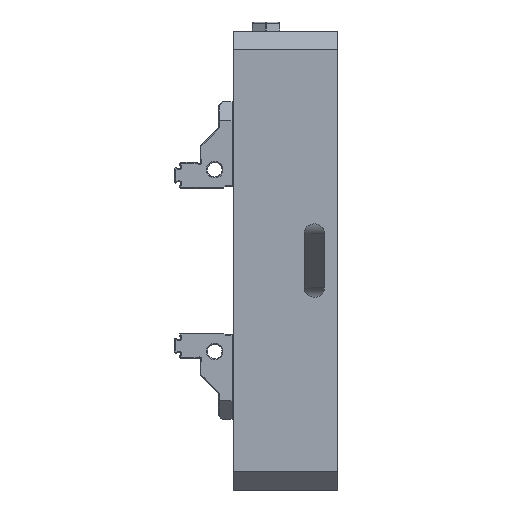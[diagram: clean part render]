
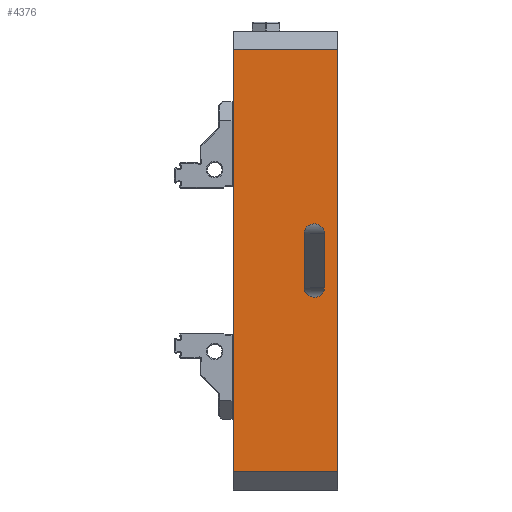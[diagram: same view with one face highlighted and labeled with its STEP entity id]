
A CAD part, left-side view. The second image highlights one B-rep face of the part: STEP entity #4376.
In plain terms, the highlighted planar face has unit normal (-1, 0, 0).
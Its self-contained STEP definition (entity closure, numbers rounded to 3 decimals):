
#728=ELLIPSE('',#31666,5.587,5.25);
#729=ELLIPSE('',#31667,5.587,5.25);
#4376=ADVANCED_FACE('',(#5875,#5876),#5428,.F.);
#5428=PLANE('',#31668);
#5875=FACE_BOUND('',#7467,.T.);
#5876=FACE_BOUND('',#7468,.T.);
#7467=EDGE_LOOP('',(#15901,#15902,#15903,#15904));
#7468=EDGE_LOOP('',(#15905,#15906,#15907,#15908));
#15901=ORIENTED_EDGE('',*,*,#23623,.T.);
#15902=ORIENTED_EDGE('',*,*,#23624,.T.);
#15903=ORIENTED_EDGE('',*,*,#23625,.T.);
#15904=ORIENTED_EDGE('',*,*,#23626,.T.);
#15905=ORIENTED_EDGE('',*,*,#23627,.T.);
#15906=ORIENTED_EDGE('',*,*,#23416,.F.);
#15907=ORIENTED_EDGE('',*,*,#23628,.T.);
#15908=ORIENTED_EDGE('',*,*,#23629,.T.);
#19381=VERTEX_POINT('',#54224);
#19382=VERTEX_POINT('',#54226);
#19574=VERTEX_POINT('',#54885);
#19575=VERTEX_POINT('',#54886);
#19576=VERTEX_POINT('',#54888);
#19577=VERTEX_POINT('',#54890);
#19578=VERTEX_POINT('',#54893);
#19579=VERTEX_POINT('',#54895);
#23416=EDGE_CURVE('',#19381,#19382,#26289,.T.);
#23623=EDGE_CURVE('',#19574,#19575,#26457,.T.);
#23624=EDGE_CURVE('',#19575,#19576,#728,.T.);
#23625=EDGE_CURVE('',#19576,#19577,#26458,.T.);
#23626=EDGE_CURVE('',#19577,#19574,#729,.T.);
#23627=EDGE_CURVE('',#19578,#19382,#26459,.T.);
#23628=EDGE_CURVE('',#19381,#19579,#26460,.T.);
#23629=EDGE_CURVE('',#19579,#19578,#26461,.T.);
#26289=LINE('',#54225,#29031);
#26457=LINE('',#54884,#29199);
#26458=LINE('',#54889,#29200);
#26459=LINE('',#54892,#29201);
#26460=LINE('',#54894,#29202);
#26461=LINE('',#54896,#29203);
#29031=VECTOR('',#38306,1.);
#29199=VECTOR('',#38522,1.);
#29200=VECTOR('',#38525,1.);
#29201=VECTOR('',#38528,1.);
#29202=VECTOR('',#38529,1.);
#29203=VECTOR('',#38530,1.);
#31666=AXIS2_PLACEMENT_3D('',#54887,#38523,#38524);
#31667=AXIS2_PLACEMENT_3D('',#54891,#38526,#38527);
#31668=AXIS2_PLACEMENT_3D('',#54897,#38531,#38532);
#38306=DIRECTION('',(0.,0.,-1.));
#38522=DIRECTION('',(0.,0.,-1.));
#38523=DIRECTION('',(1.,0.,0.));
#38524=DIRECTION('',(0.,-1.,0.));
#38525=DIRECTION('',(0.,0.,1.));
#38526=DIRECTION('',(1.,0.,0.));
#38527=DIRECTION('',(0.,1.,0.));
#38528=DIRECTION('',(0.,-1.,0.));
#38529=DIRECTION('',(0.,1.,0.));
#38530=DIRECTION('',(0.,0.,-1.));
#38531=DIRECTION('',(1.,0.,0.));
#38532=DIRECTION('',(0.,0.,-1.));
#54224=CARTESIAN_POINT('',(1581.552,691.136,520.));
#54225=CARTESIAN_POINT('',(1581.552,691.136,300.));
#54226=CARTESIAN_POINT('',(1581.552,691.136,290.));
#54884=CARTESIAN_POINT('',(1581.552,698.291,300.));
#54885=CARTESIAN_POINT('',(1581.552,698.291,419.75));
#54886=CARTESIAN_POINT('',(1581.552,698.291,390.25));
#54887=CARTESIAN_POINT('',(1581.552,703.878,390.25));
#54888=CARTESIAN_POINT('',(1581.552,709.465,390.25));
#54889=CARTESIAN_POINT('',(1581.552,709.465,300.));
#54890=CARTESIAN_POINT('',(1581.552,709.465,419.75));
#54891=CARTESIAN_POINT('',(1581.552,703.878,419.75));
#54892=CARTESIAN_POINT('',(1581.552,748.136,290.));
#54893=CARTESIAN_POINT('',(1581.552,748.136,290.));
#54894=CARTESIAN_POINT('',(1581.552,748.136,520.));
#54895=CARTESIAN_POINT('',(1581.552,748.136,520.));
#54896=CARTESIAN_POINT('',(1581.552,748.136,300.));
#54897=CARTESIAN_POINT('',(1581.552,748.136,300.));
